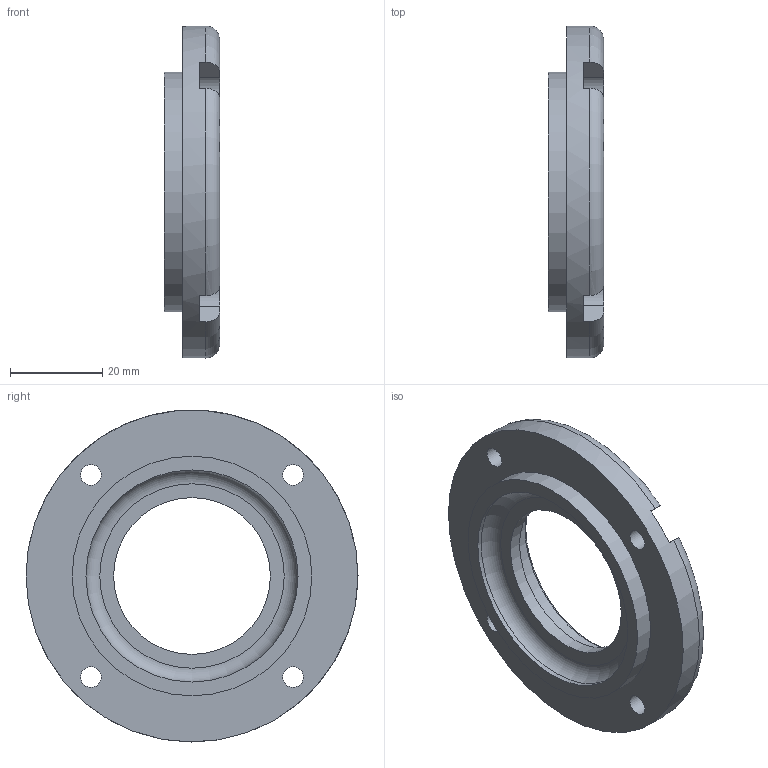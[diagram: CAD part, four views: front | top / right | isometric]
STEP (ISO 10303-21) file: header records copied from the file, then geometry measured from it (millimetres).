
FILE_DESCRIPTION(/* description */ (''),/* implementation_level */ '2;1');
FILE_NAME(/* name */ 'C:\Users\now\Desktop\박은서\커버.stp',/* time_stamp */ '2019-08-24T11:11:09+09:00',/* author */ ('now'),/* organization */ (''),/* preprocessor_version */ 'ST-DEVELOPER v15.6',/* originating_system */ 'Autodesk Inventor 2015',/* authorisation */ '');
FILE_SCHEMA (('AUTOMOTIVE_DESIGN { 1 0 10303 214 3 1 1 }'));
Length unit declared in the file: millimetre
Products named in the file (1): 커버
Bounding box: 12 x 72 x 72 mm (x, y, z)
Volume: 23879.6 mm3; surface area: 10132.3 mm2
Topology: 1 solids, 1 shells, 37 faces, 97 edges, 65 vertices
Faces by surface type: plane 17, cylinder 13, torus 6, cone 1
Full cylindrical faces by diameter (mm): 4.5 x4, 34 x1, 40 x1, 46 x1, 52 x1, 72 x1
Entity records: 1154 total; most frequent: CARTESIAN_POINT 250, DIRECTION 188, ORIENTED_EDGE 160, EDGE_CURVE 80, AXIS2_PLACEMENT_3D 78, EDGE_LOOP 62, VERTEX_POINT 60, CIRCLE 40
